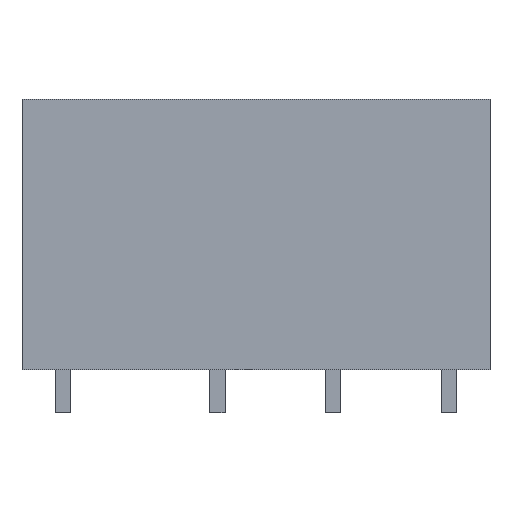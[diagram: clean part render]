
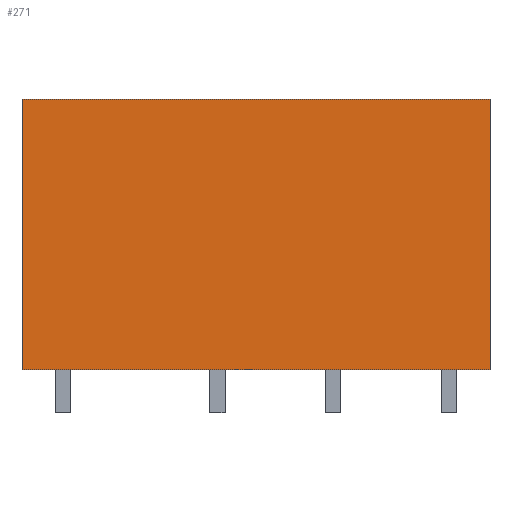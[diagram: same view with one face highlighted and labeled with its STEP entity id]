
A CAD part, front view. The second image highlights one B-rep face of the part: STEP entity #271.
In plain terms, the highlighted planar face has unit normal (0, -1, 0).
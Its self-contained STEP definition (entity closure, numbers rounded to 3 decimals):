
#55 = EDGE_CURVE('',#56,#58,#60,.T.);
#56 = VERTEX_POINT('',#57);
#57 = CARTESIAN_POINT('',(-2.65,-2.4,2.8));
#58 = VERTEX_POINT('',#59);
#59 = CARTESIAN_POINT('',(-2.65,-2.4,20.3));
#60 = SURFACE_CURVE('',#61,(#65,#77),.PCURVE_S1.);
#61 = LINE('',#62,#63);
#62 = CARTESIAN_POINT('',(-2.65,-2.4,2.8));
#63 = VECTOR('',#64,1.);
#64 = DIRECTION('',(0.,0.,1.));
#65 = PCURVE('',#66,#71);
#66 = PLANE('',#67);
#67 = AXIS2_PLACEMENT_3D('',#68,#69,#70);
#68 = CARTESIAN_POINT('',(-2.65,-2.4,2.8));
#69 = DIRECTION('',(1.,0.,-0.));
#70 = DIRECTION('',(0.,0.,1.));
#71 = DEFINITIONAL_REPRESENTATION('',(#72),#76);
#72 = LINE('',#73,#74);
#73 = CARTESIAN_POINT('',(0.,0.));
#74 = VECTOR('',#75,1.);
#75 = DIRECTION('',(1.,0.));
#76 = ( GEOMETRIC_REPRESENTATION_CONTEXT(2) 
PARAMETRIC_REPRESENTATION_CONTEXT() REPRESENTATION_CONTEXT('2D SPACE',''
  ) );
#77 = PCURVE('',#78,#83);
#78 = PLANE('',#79);
#79 = AXIS2_PLACEMENT_3D('',#80,#81,#82);
#80 = CARTESIAN_POINT('',(-2.65,-2.4,2.8));
#81 = DIRECTION('',(-0.,1.,0.));
#82 = DIRECTION('',(0.,0.,1.));
#83 = DEFINITIONAL_REPRESENTATION('',(#84),#88);
#84 = LINE('',#85,#86);
#85 = CARTESIAN_POINT('',(0.,0.));
#86 = VECTOR('',#87,1.);
#87 = DIRECTION('',(1.,0.));
#88 = ( GEOMETRIC_REPRESENTATION_CONTEXT(2) 
PARAMETRIC_REPRESENTATION_CONTEXT() REPRESENTATION_CONTEXT('2D SPACE',''
  ) );
#106 = PLANE('',#107);
#107 = AXIS2_PLACEMENT_3D('',#108,#109,#110);
#108 = CARTESIAN_POINT('',(-2.65,-2.4,2.8));
#109 = DIRECTION('',(0.,0.,1.));
#110 = DIRECTION('',(1.,0.,-0.));
#160 = PLANE('',#161);
#161 = AXIS2_PLACEMENT_3D('',#162,#163,#164);
#162 = CARTESIAN_POINT('',(-2.65,-2.4,20.3));
#163 = DIRECTION('',(0.,0.,1.));
#164 = DIRECTION('',(1.,0.,-0.));
#175 = EDGE_CURVE('',#176,#178,#180,.T.);
#176 = VERTEX_POINT('',#177);
#177 = CARTESIAN_POINT('',(27.65,-2.4,2.8));
#178 = VERTEX_POINT('',#179);
#179 = CARTESIAN_POINT('',(27.65,-2.4,20.3));
#180 = SURFACE_CURVE('',#181,(#185,#197),.PCURVE_S1.);
#181 = LINE('',#182,#183);
#182 = CARTESIAN_POINT('',(27.65,-2.4,2.8));
#183 = VECTOR('',#184,1.);
#184 = DIRECTION('',(0.,0.,1.));
#185 = PCURVE('',#186,#191);
#186 = PLANE('',#187);
#187 = AXIS2_PLACEMENT_3D('',#188,#189,#190);
#188 = CARTESIAN_POINT('',(27.65,-2.4,2.8));
#189 = DIRECTION('',(1.,0.,-0.));
#190 = DIRECTION('',(0.,0.,1.));
#191 = DEFINITIONAL_REPRESENTATION('',(#192),#196);
#192 = LINE('',#193,#194);
#193 = CARTESIAN_POINT('',(0.,0.));
#194 = VECTOR('',#195,1.);
#195 = DIRECTION('',(1.,0.));
#196 = ( GEOMETRIC_REPRESENTATION_CONTEXT(2) 
PARAMETRIC_REPRESENTATION_CONTEXT() REPRESENTATION_CONTEXT('2D SPACE',''
  ) );
#197 = PCURVE('',#78,#198);
#198 = DEFINITIONAL_REPRESENTATION('',(#199),#203);
#199 = LINE('',#200,#201);
#200 = CARTESIAN_POINT('',(0.,30.3));
#201 = VECTOR('',#202,1.);
#202 = DIRECTION('',(1.,0.));
#203 = ( GEOMETRIC_REPRESENTATION_CONTEXT(2) 
PARAMETRIC_REPRESENTATION_CONTEXT() REPRESENTATION_CONTEXT('2D SPACE',''
  ) );
#271 = ADVANCED_FACE('',(#272),#78,.F.);
#272 = FACE_BOUND('',#273,.F.);
#273 = EDGE_LOOP('',(#274,#295,#296,#317));
#274 = ORIENTED_EDGE('',*,*,#275,.F.);
#275 = EDGE_CURVE('',#56,#176,#276,.T.);
#276 = SURFACE_CURVE('',#277,(#281,#288),.PCURVE_S1.);
#277 = LINE('',#278,#279);
#278 = CARTESIAN_POINT('',(-2.65,-2.4,2.8));
#279 = VECTOR('',#280,1.);
#280 = DIRECTION('',(1.,0.,-0.));
#281 = PCURVE('',#78,#282);
#282 = DEFINITIONAL_REPRESENTATION('',(#283),#287);
#283 = LINE('',#284,#285);
#284 = CARTESIAN_POINT('',(0.,0.));
#285 = VECTOR('',#286,1.);
#286 = DIRECTION('',(0.,1.));
#287 = ( GEOMETRIC_REPRESENTATION_CONTEXT(2) 
PARAMETRIC_REPRESENTATION_CONTEXT() REPRESENTATION_CONTEXT('2D SPACE',''
  ) );
#288 = PCURVE('',#106,#289);
#289 = DEFINITIONAL_REPRESENTATION('',(#290),#294);
#290 = LINE('',#291,#292);
#291 = CARTESIAN_POINT('',(0.,0.));
#292 = VECTOR('',#293,1.);
#293 = DIRECTION('',(1.,0.));
#294 = ( GEOMETRIC_REPRESENTATION_CONTEXT(2) 
PARAMETRIC_REPRESENTATION_CONTEXT() REPRESENTATION_CONTEXT('2D SPACE',''
  ) );
#295 = ORIENTED_EDGE('',*,*,#55,.T.);
#296 = ORIENTED_EDGE('',*,*,#297,.T.);
#297 = EDGE_CURVE('',#58,#178,#298,.T.);
#298 = SURFACE_CURVE('',#299,(#303,#310),.PCURVE_S1.);
#299 = LINE('',#300,#301);
#300 = CARTESIAN_POINT('',(-2.65,-2.4,20.3));
#301 = VECTOR('',#302,1.);
#302 = DIRECTION('',(1.,0.,-0.));
#303 = PCURVE('',#78,#304);
#304 = DEFINITIONAL_REPRESENTATION('',(#305),#309);
#305 = LINE('',#306,#307);
#306 = CARTESIAN_POINT('',(17.5,0.));
#307 = VECTOR('',#308,1.);
#308 = DIRECTION('',(0.,1.));
#309 = ( GEOMETRIC_REPRESENTATION_CONTEXT(2) 
PARAMETRIC_REPRESENTATION_CONTEXT() REPRESENTATION_CONTEXT('2D SPACE',''
  ) );
#310 = PCURVE('',#160,#311);
#311 = DEFINITIONAL_REPRESENTATION('',(#312),#316);
#312 = LINE('',#313,#314);
#313 = CARTESIAN_POINT('',(0.,0.));
#314 = VECTOR('',#315,1.);
#315 = DIRECTION('',(1.,0.));
#316 = ( GEOMETRIC_REPRESENTATION_CONTEXT(2) 
PARAMETRIC_REPRESENTATION_CONTEXT() REPRESENTATION_CONTEXT('2D SPACE',''
  ) );
#317 = ORIENTED_EDGE('',*,*,#175,.F.);
